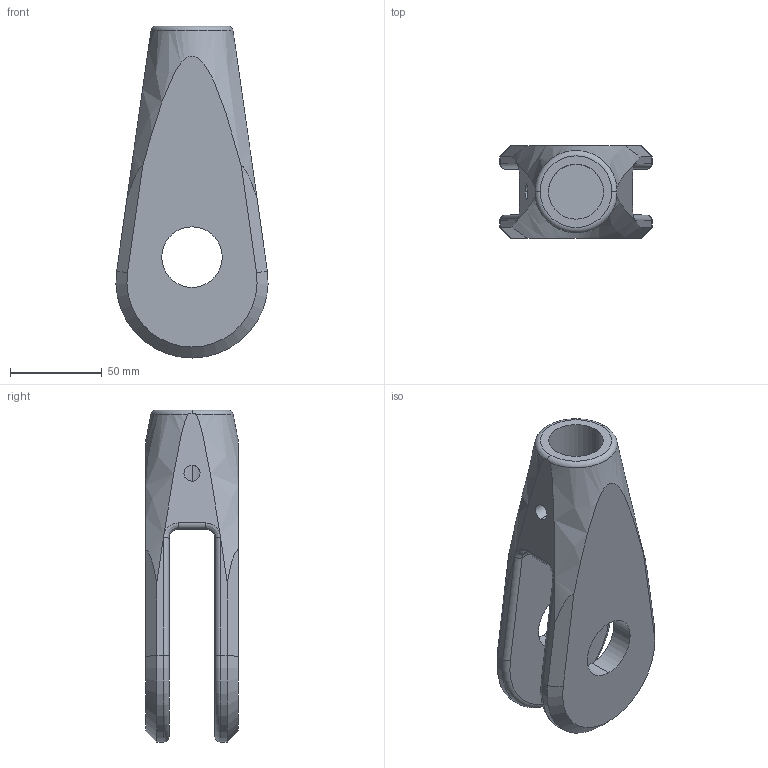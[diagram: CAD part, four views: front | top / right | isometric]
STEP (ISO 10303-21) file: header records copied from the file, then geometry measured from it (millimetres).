
FILE_DESCRIPTION (( 'STEP AP203' ), '1' );
FILE_NAME ('Gabelkopf M30.STEP', '2018-02-20T06:37:12', ( 'install' ), ( 'Hewlett-Packard Company' ), 'SwSTEP 2.0', 'SolidWorks 2017', '' );
FILE_SCHEMA (( 'CONFIG_CONTROL_DESIGN' ));
Length unit declared in the file: millimetre
Products named in the file (1): Gabelkopf M30
Bounding box: 82.96 x 50.4 x 181 mm (x, y, z)
Volume: 282743 mm3; surface area: 56143.4 mm2
Topology: 1 solids, 1 shells, 51 faces, 127 edges, 78 vertices
Faces by surface type: cylinder 20, plane 17, cone 5, torus 5, bspline 4
Entity records: 2047 total; most frequent: CARTESIAN_POINT 815, ORIENTED_EDGE 254, DIRECTION 230, EDGE_CURVE 127, AXIS2_PLACEMENT_3D 93, VERTEX_POINT 78, EDGE_LOOP 57, FACE_OUTER_BOUND 51
